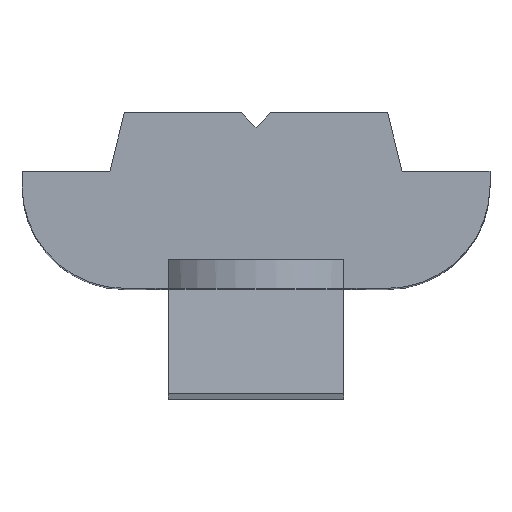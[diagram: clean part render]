
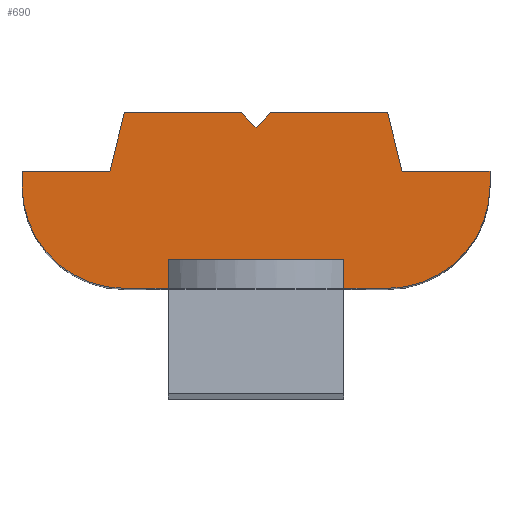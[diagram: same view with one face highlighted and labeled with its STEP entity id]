
A CAD part, top view. The second image highlights one B-rep face of the part: STEP entity #690.
In plain terms, the highlighted planar face has unit normal (0, 0, 1).
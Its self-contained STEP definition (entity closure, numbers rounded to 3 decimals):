
#99=DIRECTION('',(0.,1.,0.));
#100=VECTOR('',#99,1.);
#101=CARTESIAN_POINT('',(3.,-4.,12.5));
#102=LINE('',#101,#100);
#103=DIRECTION('',(-1.,0.,0.));
#104=VECTOR('',#103,6.);
#105=CARTESIAN_POINT('',(3.,-3.,12.5));
#106=LINE('',#105,#104);
#107=DIRECTION('',(0.,1.,0.));
#108=VECTOR('',#107,1.);
#109=CARTESIAN_POINT('',(-3.,-4.,12.5));
#110=LINE('',#109,#108);
#111=DIRECTION('',(1.,0.,0.));
#112=VECTOR('',#111,1.5);
#113=CARTESIAN_POINT('',(-4.5,-4.,12.5));
#114=LINE('',#113,#112);
#115=CARTESIAN_POINT('',(-4.5,-0.5,12.5));
#116=DIRECTION('',(0.,0.,1.));
#117=DIRECTION('',(-1.,0.,0.));
#118=AXIS2_PLACEMENT_3D('',#115,#116,#117);
#120=DIRECTION('',(0.,-1.,0.));
#121=VECTOR('',#120,0.5);
#122=CARTESIAN_POINT('',(-8.,0.,12.5));
#123=LINE('',#122,#121);
#124=DIRECTION('',(-1.,0.,0.));
#125=VECTOR('',#124,3.);
#126=CARTESIAN_POINT('',(-5.,0.,12.5));
#127=LINE('',#126,#125);
#128=DIRECTION('',(-0.243,-0.97,0.));
#129=VECTOR('',#128,2.062);
#130=CARTESIAN_POINT('',(-4.5,2.,12.5));
#131=LINE('',#130,#129);
#132=DIRECTION('',(-1.,0.,0.));
#133=VECTOR('',#132,4.);
#134=CARTESIAN_POINT('',(-0.5,2.,12.5));
#135=LINE('',#134,#133);
#136=DIRECTION('',(-0.707,0.707,0.));
#137=VECTOR('',#136,0.707);
#138=CARTESIAN_POINT('',(0.,1.5,12.5));
#139=LINE('',#138,#137);
#140=DIRECTION('',(-0.707,-0.707,0.));
#141=VECTOR('',#140,0.707);
#142=CARTESIAN_POINT('',(0.5,2.,12.5));
#143=LINE('',#142,#141);
#144=DIRECTION('',(-1.,0.,0.));
#145=VECTOR('',#144,4.);
#146=CARTESIAN_POINT('',(4.5,2.,12.5));
#147=LINE('',#146,#145);
#148=DIRECTION('',(-0.243,0.97,0.));
#149=VECTOR('',#148,2.062);
#150=CARTESIAN_POINT('',(5.,0.,12.5));
#151=LINE('',#150,#149);
#152=DIRECTION('',(-1.,0.,0.));
#153=VECTOR('',#152,3.);
#154=CARTESIAN_POINT('',(8.,0.,12.5));
#155=LINE('',#154,#153);
#156=DIRECTION('',(0.,1.,0.));
#157=VECTOR('',#156,0.5);
#158=CARTESIAN_POINT('',(8.,-0.5,12.5));
#159=LINE('',#158,#157);
#160=CARTESIAN_POINT('',(4.5,-0.5,12.5));
#161=DIRECTION('',(0.,0.,1.));
#162=DIRECTION('',(0.,-1.,0.));
#163=AXIS2_PLACEMENT_3D('',#160,#161,#162);
#165=DIRECTION('',(1.,0.,0.));
#166=VECTOR('',#165,1.5);
#167=CARTESIAN_POINT('',(3.,-4.,12.5));
#168=LINE('',#167,#166);
#443=CARTESIAN_POINT('',(8.,0.,12.5));
#444=CARTESIAN_POINT('',(5.,0.,12.5));
#445=VERTEX_POINT('',#443);
#446=VERTEX_POINT('',#444);
#447=CARTESIAN_POINT('',(4.5,2.,12.5));
#448=CARTESIAN_POINT('',(0.5,2.,12.5));
#449=VERTEX_POINT('',#447);
#450=VERTEX_POINT('',#448);
#451=CARTESIAN_POINT('',(0.,1.5,12.5));
#452=VERTEX_POINT('',#451);
#487=CARTESIAN_POINT('',(-0.5,2.,12.5));
#488=VERTEX_POINT('',#487);
#489=CARTESIAN_POINT('',(-4.5,2.,12.5));
#490=VERTEX_POINT('',#489);
#491=CARTESIAN_POINT('',(-5.,0.,12.5));
#492=VERTEX_POINT('',#491);
#493=CARTESIAN_POINT('',(-8.,0.,12.5));
#494=VERTEX_POINT('',#493);
#495=CARTESIAN_POINT('',(-8.,-0.5,12.5));
#496=VERTEX_POINT('',#495);
#497=CARTESIAN_POINT('',(-4.5,-4.,12.5));
#498=VERTEX_POINT('',#497);
#499=CARTESIAN_POINT('',(4.5,-4.,12.5));
#500=CARTESIAN_POINT('',(8.,-0.5,12.5));
#501=VERTEX_POINT('',#499);
#502=VERTEX_POINT('',#500);
#505=CARTESIAN_POINT('',(3.,-4.,12.5));
#506=CARTESIAN_POINT('',(3.,-3.,12.5));
#507=VERTEX_POINT('',#505);
#508=VERTEX_POINT('',#506);
#509=CARTESIAN_POINT('',(-3.,-3.,12.5));
#510=VERTEX_POINT('',#509);
#511=CARTESIAN_POINT('',(-3.,-4.,12.5));
#512=VERTEX_POINT('',#511);
#650=CARTESIAN_POINT('',(0.,0.,12.5));
#651=DIRECTION('',(0.,0.,1.));
#652=DIRECTION('',(1.,0.,0.));
#653=AXIS2_PLACEMENT_3D('',#650,#651,#652);
#654=PLANE('',#653);
#656=ORIENTED_EDGE('',*,*,#655,.T.);
#658=ORIENTED_EDGE('',*,*,#657,.T.);
#659=ORIENTED_EDGE('',*,*,#608,.F.);
#661=ORIENTED_EDGE('',*,*,#660,.F.);
#663=ORIENTED_EDGE('',*,*,#662,.F.);
#665=ORIENTED_EDGE('',*,*,#664,.F.);
#667=ORIENTED_EDGE('',*,*,#666,.F.);
#669=ORIENTED_EDGE('',*,*,#668,.F.);
#671=ORIENTED_EDGE('',*,*,#670,.F.);
#673=ORIENTED_EDGE('',*,*,#672,.F.);
#675=ORIENTED_EDGE('',*,*,#674,.F.);
#677=ORIENTED_EDGE('',*,*,#676,.F.);
#679=ORIENTED_EDGE('',*,*,#678,.F.);
#681=ORIENTED_EDGE('',*,*,#680,.F.);
#683=ORIENTED_EDGE('',*,*,#682,.F.);
#685=ORIENTED_EDGE('',*,*,#684,.F.);
#687=ORIENTED_EDGE('',*,*,#686,.F.);
#688=EDGE_LOOP('',(#656,#658,#659,#661,#663,#665,#667,#669,#671,#673,#675,#677,
#679,#681,#683,#685,#687));
#689=FACE_OUTER_BOUND('',#688,.F.);
#690=ADVANCED_FACE('',(#689),#654,.T.);
#119=CIRCLE('',#118,3.5);
#164=CIRCLE('',#163,3.5);
#608=EDGE_CURVE('',#512,#510,#110,.T.);
#655=EDGE_CURVE('',#507,#508,#102,.T.);
#657=EDGE_CURVE('',#508,#510,#106,.T.);
#660=EDGE_CURVE('',#498,#512,#114,.T.);
#662=EDGE_CURVE('',#496,#498,#119,.T.);
#664=EDGE_CURVE('',#494,#496,#123,.T.);
#666=EDGE_CURVE('',#492,#494,#127,.T.);
#668=EDGE_CURVE('',#490,#492,#131,.T.);
#670=EDGE_CURVE('',#488,#490,#135,.T.);
#672=EDGE_CURVE('',#452,#488,#139,.T.);
#674=EDGE_CURVE('',#450,#452,#143,.T.);
#676=EDGE_CURVE('',#449,#450,#147,.T.);
#678=EDGE_CURVE('',#446,#449,#151,.T.);
#680=EDGE_CURVE('',#445,#446,#155,.T.);
#682=EDGE_CURVE('',#502,#445,#159,.T.);
#684=EDGE_CURVE('',#501,#502,#164,.T.);
#686=EDGE_CURVE('',#507,#501,#168,.T.);
